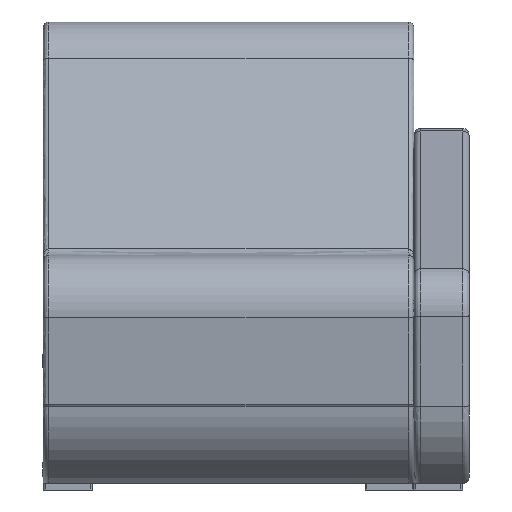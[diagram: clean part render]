
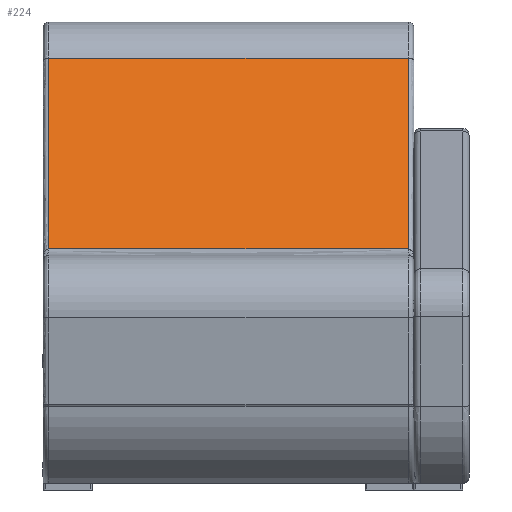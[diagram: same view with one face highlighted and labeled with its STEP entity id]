
A CAD part, front view. The second image highlights one B-rep face of the part: STEP entity #224.
In plain terms, the highlighted planar face has unit normal (0, -0.94, 0.342).
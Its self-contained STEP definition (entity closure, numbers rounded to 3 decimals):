
#224=ADVANCED_FACE('',(#346),#2017,.T.);
#346=FACE_OUTER_BOUND('',#468,.T.);
#468=EDGE_LOOP('',(#968,#969,#970,#971));
#968=ORIENTED_EDGE('',*,*,#1320,.F.);
#969=ORIENTED_EDGE('',*,*,#1291,.F.);
#970=ORIENTED_EDGE('',*,*,#1319,.T.);
#971=ORIENTED_EDGE('',*,*,#1274,.F.);
#1274=EDGE_CURVE('',#1830,#1829,#2119,.T.);
#1291=EDGE_CURVE('',#1845,#1846,#2125,.T.);
#1319=EDGE_CURVE('',#1845,#1829,#1620,.T.);
#1320=EDGE_CURVE('',#1846,#1830,#2143,.T.);
#1620=(
BOUNDED_CURVE()
B_SPLINE_CURVE(1,(#4811,#4812),.UNSPECIFIED.,.F.,.F.)
B_SPLINE_CURVE_WITH_KNOTS((2,2),(12.207,378.644),
 .UNSPECIFIED.)
CURVE()
GEOMETRIC_REPRESENTATION_ITEM()
RATIONAL_B_SPLINE_CURVE((1.,1.))
REPRESENTATION_ITEM('')
);
#1829=VERTEX_POINT('',#4389);
#1830=VERTEX_POINT('',#4390);
#1845=VERTEX_POINT('',#4405);
#1846=VERTEX_POINT('',#4406);
#2017=PLANE('',#2202);
#2119=B_SPLINE_CURVE_WITH_KNOTS('',1,(#4550,#4551),.UNSPECIFIED.,.F.,.F.,
(2,2),(10.,740.),.UNSPECIFIED.);
#2125=B_SPLINE_CURVE_WITH_KNOTS('',1,(#4607,#4608),.UNSPECIFIED.,.F.,.F.,
(2,2),(10.,740.),.UNSPECIFIED.);
#2143=B_SPLINE_CURVE_WITH_KNOTS('',1,(#4813,#4814),.UNSPECIFIED.,.F.,.F.,
(2,2),(-16658.981,-16292.544),.UNSPECIFIED.);
#2202=AXIS2_PLACEMENT_3D('',#4362,#2230,$);
#2230=DIRECTION('',(0.,-0.94,0.342));
#4362=CARTESIAN_POINT('',(660.,68.229,435.47));
#4389=CARTESIAN_POINT('',(660.,193.618,779.787));
#4390=CARTESIAN_POINT('',(10.,193.618,779.787));
#4405=CARTESIAN_POINT('',(660.,68.229,435.47));
#4406=CARTESIAN_POINT('',(10.,68.229,435.47));
#4550=CARTESIAN_POINT('',(10.,193.618,779.787));
#4551=CARTESIAN_POINT('',(660.,193.618,779.787));
#4607=CARTESIAN_POINT('',(660.,68.229,435.47));
#4608=CARTESIAN_POINT('',(10.,68.229,435.47));
#4811=CARTESIAN_POINT('',(660.,68.229,435.47));
#4812=CARTESIAN_POINT('',(660.,193.618,779.787));
#4813=CARTESIAN_POINT('',(10.,68.229,435.47));
#4814=CARTESIAN_POINT('',(10.,193.618,779.787));
